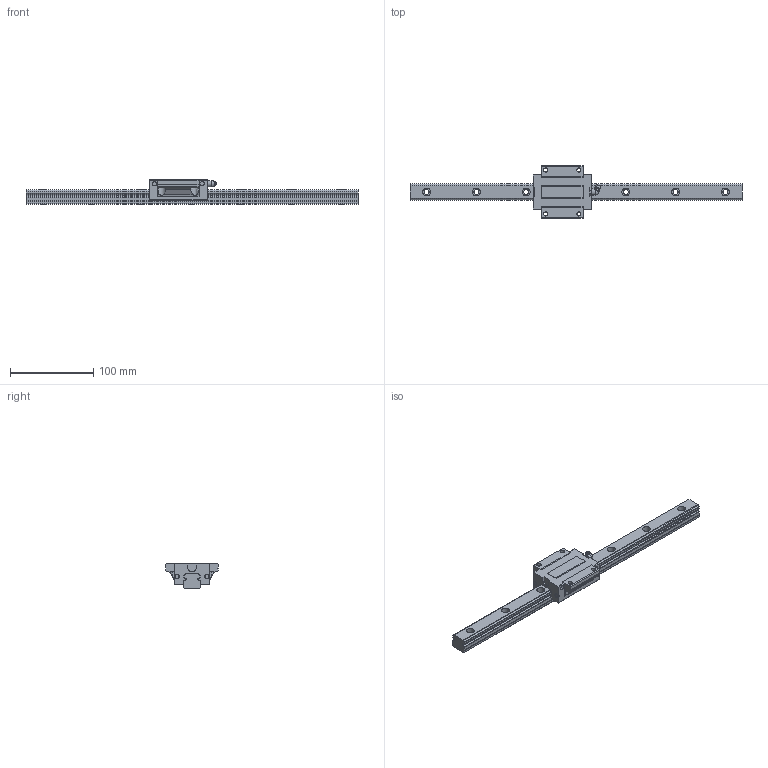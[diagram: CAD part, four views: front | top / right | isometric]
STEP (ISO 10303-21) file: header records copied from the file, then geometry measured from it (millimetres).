
FILE_DESCRIPTION((''),'2;1');
FILE_NAME('D:\製品 (図面)\カタログ用3D\リニアガイド関連\STEP形式\LGHR-F\LGHR20F.stp','2010-06-02T15:53:36',('Tsuchiya'),(''),'Autodesk Inventor 10','Autodesk Inventor 10','');
FILE_SCHEMA(('AUTOMOTIVE_DESIGN { 1 0 10303 214 1 1 1 1 }'));
Length unit declared in the file: millimetre
Products named in the file (3): LGHR20F; LGHR20F1; LGHR20F2
Assembly tree (2 placements, depth 2):
  LGHR20F
    LGHR20F1
    LGHR20F2
Bounding box: 400 x 63 x 30 mm (x, y, z)
Volume: 196280 mm3; surface area: 52928.8 mm2
Topology: 2 solids, 2 shells, 205 faces, 541 edges, 358 vertices
Faces by surface type: plane 98, cylinder 57, bspline 45, sphere 3, cone 2
Full cylindrical faces by diameter (mm): 4.5 x2, 4.917 x2, 5.2 x2, 5.5 x2, 7 x1, 7.7 x1
Entity records: 6758 total; most frequent: CARTESIAN_POINT 1802, ORIENTED_EDGE 984, DIRECTION 974, EDGE_CURVE 492, VERTEX_POINT 350, AXIS2_PLACEMENT_3D 333, VECTOR 308, LINE 308
